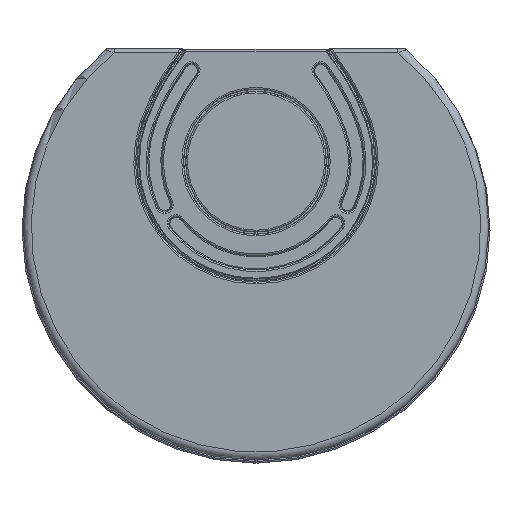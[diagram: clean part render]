
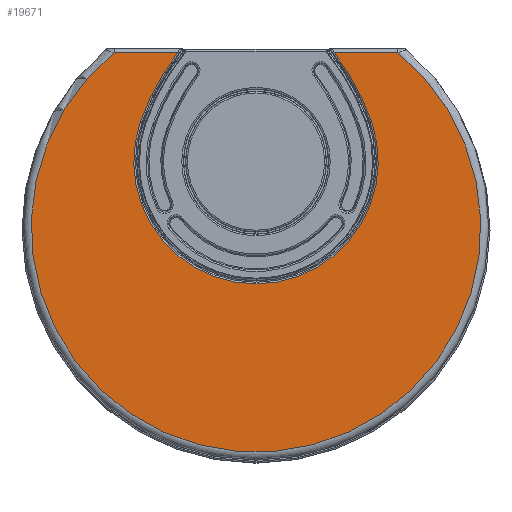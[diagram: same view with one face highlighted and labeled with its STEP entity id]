
A CAD part, top view. The second image highlights one B-rep face of the part: STEP entity #19671.
In plain terms, the highlighted planar face has unit normal (0, 0, 1).
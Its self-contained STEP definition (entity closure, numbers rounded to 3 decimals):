
#623=CIRCLE('',#21182,152.766);
#624=CIRCLE('',#21183,302.766);
#625=CIRCLE('',#21184,281.);
#626=CIRCLE('',#21185,302.766);
#2744=ORIENTED_EDGE('',*,*,#8944,.T.);
#2745=ORIENTED_EDGE('',*,*,#8945,.T.);
#2746=ORIENTED_EDGE('',*,*,#8946,.T.);
#2747=ORIENTED_EDGE('',*,*,#8947,.T.);
#2748=ORIENTED_EDGE('',*,*,#8948,.T.);
#2749=ORIENTED_EDGE('',*,*,#8949,.T.);
#8944=EDGE_CURVE('',#12044,#12045,#623,.F.);
#8945=EDGE_CURVE('',#12045,#12046,#624,.F.);
#8946=EDGE_CURVE('',#12046,#12047,#14023,.T.);
#8947=EDGE_CURVE('',#12047,#12048,#625,.T.);
#8948=EDGE_CURVE('',#12048,#12049,#14024,.T.);
#8949=EDGE_CURVE('',#12049,#12044,#626,.F.);
#12044=VERTEX_POINT('',#27955);
#12045=VERTEX_POINT('',#27956);
#12046=VERTEX_POINT('',#27958);
#12047=VERTEX_POINT('',#27960);
#12048=VERTEX_POINT('',#27962);
#12049=VERTEX_POINT('',#27964);
#14023=LINE('',#27959,#15211);
#14024=LINE('',#27963,#15212);
#15211=VECTOR('',#23053,1000.);
#15212=VECTOR('',#23056,1000.);
#16388=EDGE_LOOP('',(#2744,#2745,#2746,#2747,#2748,#2749));
#17753=FACE_BOUND('',#16388,.T.);
#19117=PLANE('',#21181);
#19671=ADVANCED_FACE('',(#17753),#19117,.T.);
#21181=AXIS2_PLACEMENT_3D('',#27953,#23047,#23048);
#21182=AXIS2_PLACEMENT_3D('',#27954,#23049,#23050);
#21183=AXIS2_PLACEMENT_3D('',#27957,#23051,#23052);
#21184=AXIS2_PLACEMENT_3D('',#27961,#23054,#23055);
#21185=AXIS2_PLACEMENT_3D('',#27965,#23057,#23058);
#23047=DIRECTION('',(0.,0.,1.));
#23048=DIRECTION('',(1.,0.,0.));
#23049=DIRECTION('',(0.,0.,1.));
#23050=DIRECTION('',(1.,0.,0.));
#23051=DIRECTION('',(0.,0.,1.));
#23052=DIRECTION('',(1.,0.,0.));
#23053=DIRECTION('',(-1.,0.,0.));
#23054=DIRECTION('',(0.,0.,1.));
#23055=DIRECTION('',(1.,0.,0.));
#23056=DIRECTION('',(-1.,0.,0.));
#23057=DIRECTION('',(0.,0.,1.));
#23058=DIRECTION('',(1.,0.,0.));
#27953=CARTESIAN_POINT('',(0.,-321.3,1290.));
#27954=CARTESIAN_POINT('',(0.,-239.3,1290.));
#27955=CARTESIAN_POINT('',(144.356,-189.313,1290.));
#27956=CARTESIAN_POINT('',(-144.356,-189.313,1290.));
#27957=CARTESIAN_POINT('',(141.743,-288.382,1290.));
#27958=CARTESIAN_POINT('',(-97.865,-103.3,1290.));
#27959=CARTESIAN_POINT('',(-170.974,-103.3,1290.));
#27960=CARTESIAN_POINT('',(-177.305,-103.3,1290.));
#27961=CARTESIAN_POINT('',(0.,-321.3,1290.));
#27962=CARTESIAN_POINT('',(177.305,-103.3,1290.));
#27963=CARTESIAN_POINT('',(91.344,-103.3,1290.));
#27964=CARTESIAN_POINT('',(97.865,-103.3,1290.));
#27965=CARTESIAN_POINT('',(-141.743,-288.382,1290.));
